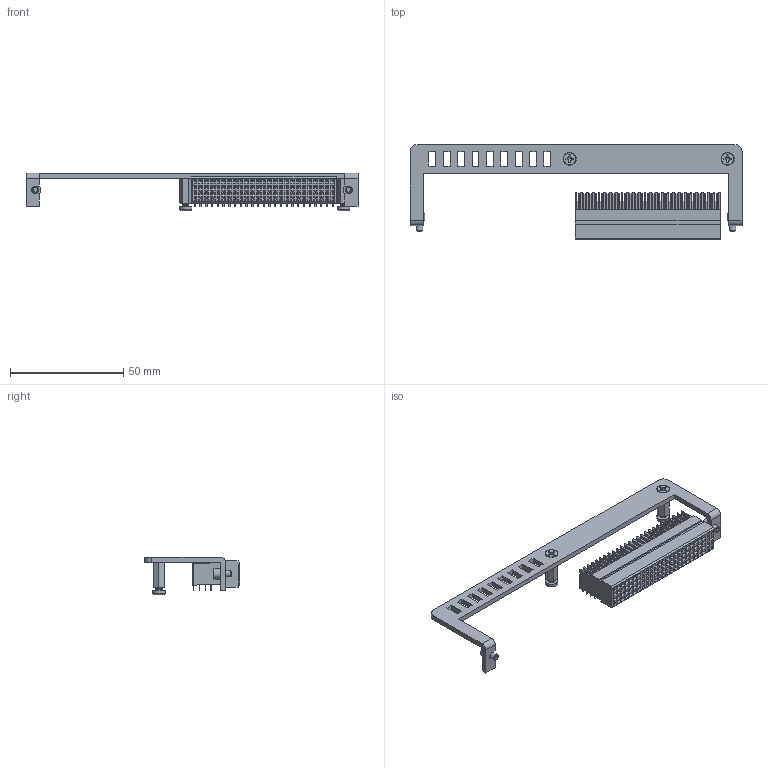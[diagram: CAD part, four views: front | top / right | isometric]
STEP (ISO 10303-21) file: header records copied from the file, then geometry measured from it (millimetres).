
FILE_DESCRIPTION(/* description */ ('Strain Relief Plate, Receiver and ITA '),/* implementation_level */ '2;1');
FILE_NAME(/* name */ '562425.stp',/* time_stamp */ '2026-04-15T10:55:19-04:00',/* author */ ('bsalvatini'),/* organization */ (''),/* preprocessor_version */ 'ST-DEVELOPER v20',/* originating_system */ 'Autodesk Inventor 2025',/* authorisation */ '');
FILE_SCHEMA (('AUTOMOTIVE_DESIGN { 1 0 10303 214 3 1 1 }'));
Products named in the file (8): 562425; 5519788; 440C45; 440D85; 5517272; 50295-1100ELF; 91115A512; #111615
Assembly tree (11 placements, depth 3):
  562425
    5519788
    440C45  x2
    440D85  x2
    5517272
      50295-1100ELF
    91115A512  x2
    #111615  x2
Bounding box: 146.81 x 41.96 x 16.7 mm (x, y, z)
Volume: 15275 mm3; surface area: 24511 mm2
Topology: 112 solids, 112 shells, 3540 faces, 9738 edges, 6328 vertices
Faces by surface type: plane 3076, cylinder 394, cone 58, bspline 10, torus 2
Full cylindrical faces by diameter (mm): 0.051 x2, 0.33 x2, 2.02 x30, 2.157 x10, 2.845 x44, 3.277 x2, 4.648 x2, 5.573 x2
Entity records: 111518 total; most frequent: CARTESIAN_POINT 22690, ORIENTED_EDGE 18660, DIRECTION 16673, EDGE_CURVE 9330, LINE 8411, VECTOR 8411, VERTEX_POINT 6073, AXIS2_PLACEMENT_3D 4131
